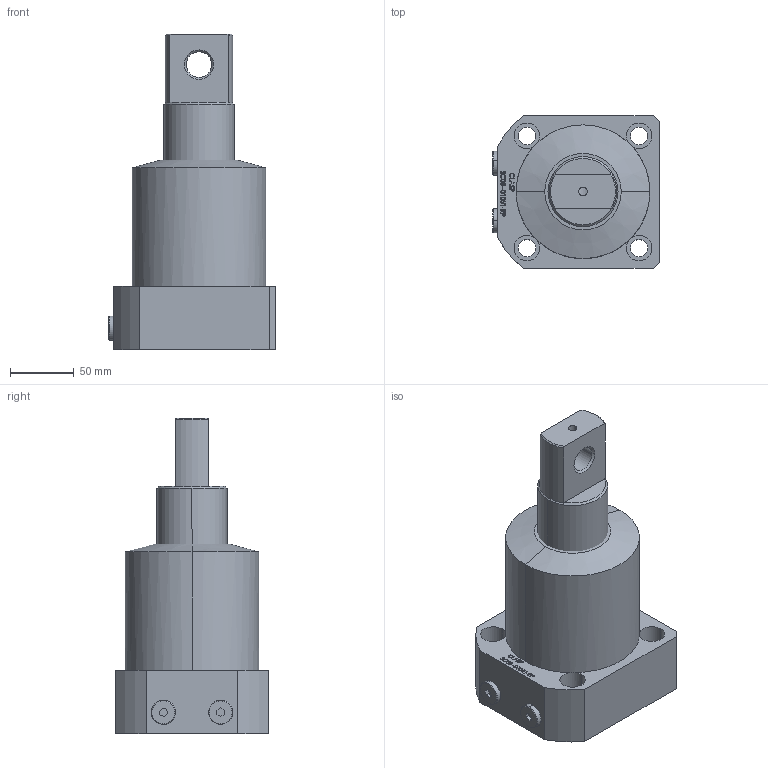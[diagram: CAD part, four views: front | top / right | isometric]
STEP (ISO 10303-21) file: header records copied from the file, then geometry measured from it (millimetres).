
FILE_DESCRIPTION (( 'STEP AP203' ), '1' );
FILE_NAME ('SC08-01051-RP.STEP', '2022-07-08T17:09:48', ( '' ), ( '' ), 'SwSTEP 2.0', 'SolidWorks 2017', '' );
FILE_SCHEMA (( 'CONFIG_CONTROL_DESIGN' ));
Length unit declared in the file: millimetre
Products named in the file (4): SC-08-01051-RP BODY; SC-08-01051-RP-Piston; SC-08-01051-RP-05 plug; SC08-01051-RP
Assembly tree (4 placements, depth 2):
  SC08-01051-RP
    SC-08-01051-RP BODY
    SC-08-01051-RP-Piston
    SC-08-01051-RP-05 plug  x2
Bounding box: 131 x 120 x 248 mm (x, y, z)
Volume: 1753662 mm3; surface area: 122892 mm2
Topology: 4 solids, 4 shells, 347 faces, 872 edges, 573 vertices
Faces by surface type: plane 160, bspline 117, cylinder 51, cone 19
Entity records: 17291 total; most frequent: CARTESIAN_POINT 9527, ORIENTED_EDGE 1680, DIRECTION 1169, EDGE_CURVE 840, VERTEX_POINT 553, LINE 467, VECTOR 467, EDGE_LOOP 383
